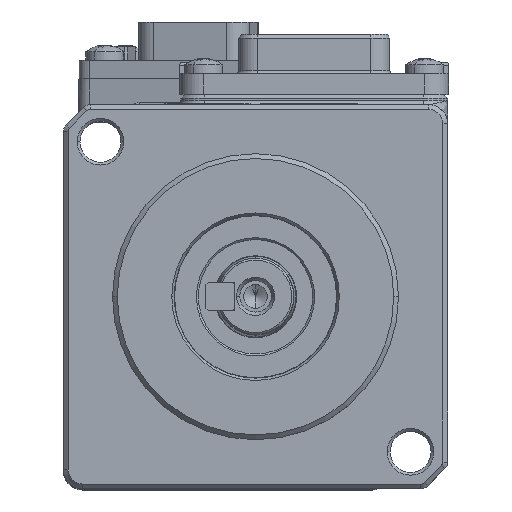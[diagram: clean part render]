
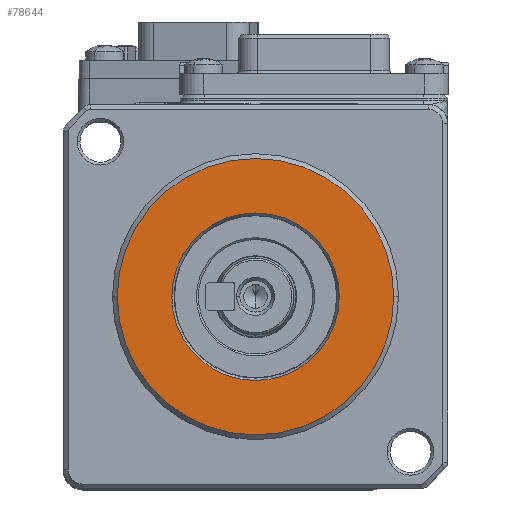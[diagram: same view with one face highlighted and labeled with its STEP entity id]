
A CAD part, top view. The second image highlights one B-rep face of the part: STEP entity #78644.
In plain terms, the highlighted planar face has unit normal (0, 0, 1).
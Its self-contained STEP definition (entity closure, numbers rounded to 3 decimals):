
#4481 = DIRECTION ( 'NONE',  ( -1., 0., 0. ) ) ;
#9520 = AXIS2_PLACEMENT_3D ( 'NONE', #16464, #28699, #57239 ) ;
#10186 = CARTESIAN_POINT ( 'NONE',  ( 8.789, 0., -3. ) ) ;
#10532 = CARTESIAN_POINT ( 'NONE',  ( 0., 0., -3. ) ) ;
#11866 = AXIS2_PLACEMENT_3D ( 'NONE', #14775, #26214, #76711 ) ;
#14775 = CARTESIAN_POINT ( 'NONE',  ( 0., 0., -3. ) ) ;
#15934 = VERTEX_POINT ( 'NONE', #10186 ) ;
#16464 = CARTESIAN_POINT ( 'NONE',  ( 0., 15.3, -3. ) ) ;
#16632 = FACE_BOUND ( 'NONE', #85916, .T. ) ;
#18669 = CARTESIAN_POINT ( 'NONE',  ( -14.5, 0., -3. ) ) ;
#19222 = DIRECTION ( 'NONE',  ( 0., 0., -1. ) ) ;
#19688 = DIRECTION ( 'NONE',  ( -1., 0., 0. ) ) ;
#20149 = EDGE_CURVE ( 'NONE', #92376, #42354, #83776, .T. ) ;
#22501 = DIRECTION ( 'NONE',  ( 0., 0., -1. ) ) ;
#26214 = DIRECTION ( 'NONE',  ( 0., 0., -1. ) ) ;
#28699 = DIRECTION ( 'NONE',  ( 0., 0., 1. ) ) ;
#32538 = DIRECTION ( 'NONE',  ( 0., 0., -1. ) ) ;
#40475 = AXIS2_PLACEMENT_3D ( 'NONE', #43129, #22501, #72578 ) ;
#42354 = VERTEX_POINT ( 'NONE', #64737 ) ;
#43129 = CARTESIAN_POINT ( 'NONE',  ( 0., 0., -3. ) ) ;
#48773 = CIRCLE ( 'NONE', #90565, 8.789 ) ;
#56724 = CIRCLE ( 'NONE', #11866, 8.789 ) ;
#57239 = DIRECTION ( 'NONE',  ( 1., 0., 0. ) ) ;
#64317 = ORIENTED_EDGE ( 'NONE', *, *, #65438, .T. ) ;
#64737 = CARTESIAN_POINT ( 'NONE',  ( 14.5, 0., -3. ) ) ;
#64896 = EDGE_LOOP ( 'NONE', ( #72652, #85671 ) ) ;
#65438 = EDGE_CURVE ( 'NONE', #70791, #15934, #48773, .T. ) ;
#66995 = CIRCLE ( 'NONE', #77390, 14.5 ) ;
#68988 = EDGE_CURVE ( 'NONE', #15934, #70791, #56724, .T. ) ;
#70791 = VERTEX_POINT ( 'NONE', #78198 ) ;
#71901 = EDGE_CURVE ( 'NONE', #42354, #92376, #66995, .T. ) ;
#72578 = DIRECTION ( 'NONE',  ( -1., 0., 0. ) ) ;
#72652 = ORIENTED_EDGE ( 'NONE', *, *, #20149, .F. ) ;
#73724 = PLANE ( 'NONE',  #9520 ) ;
#76711 = DIRECTION ( 'NONE',  ( -1., 0., 0. ) ) ;
#77390 = AXIS2_PLACEMENT_3D ( 'NONE', #10532, #32538, #4481 ) ;
#78198 = CARTESIAN_POINT ( 'NONE',  ( -8.789, 0., -3. ) ) ;
#78644 = ADVANCED_FACE ( 'NONE', ( #88654, #16632 ), #73724, .T. ) ;
#82384 = CARTESIAN_POINT ( 'NONE',  ( 0., 0., -3. ) ) ;
#83776 = CIRCLE ( 'NONE', #40475, 14.5 ) ;
#85671 = ORIENTED_EDGE ( 'NONE', *, *, #71901, .F. ) ;
#85916 = EDGE_LOOP ( 'NONE', ( #87501, #64317 ) ) ;
#87501 = ORIENTED_EDGE ( 'NONE', *, *, #68988, .T. ) ;
#88654 = FACE_OUTER_BOUND ( 'NONE', #64896, .T. ) ;
#90565 = AXIS2_PLACEMENT_3D ( 'NONE', #82384, #19222, #19688 ) ;
#92376 = VERTEX_POINT ( 'NONE', #18669 ) ;
